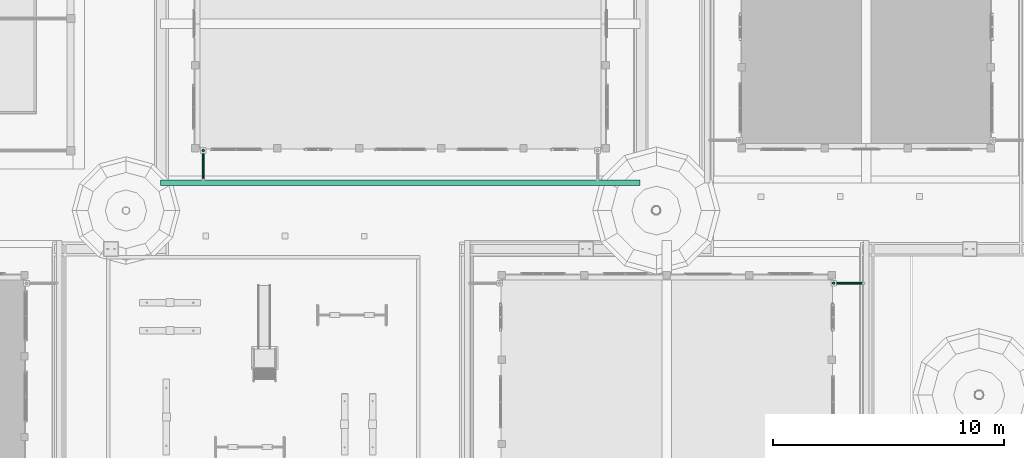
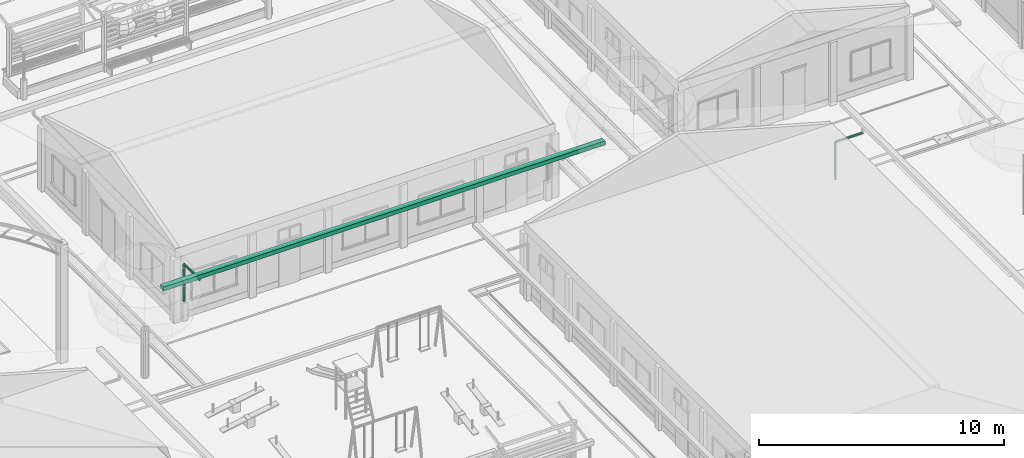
# One storey, part 108 of 177: 5 pipe segments.
"""IFC4 building model written with IfcOpenShell, lengths in metres."""

from ifc_helpers import new_model, si_unit, origin, origin_with_axes, place, context, subcontext, project, spatial, triangles, element, save


model = new_model("IFC4")

# Units and contexts
model_context = context("Model", 3, precision=1e-05, world=origin_with_axes())
body_context = subcontext(model_context, "Body", "Model", "MODEL_VIEW")
ifc_project = project(units=[si_unit("LENGTHUNIT", "METRE"), si_unit("AREAUNIT", "SQUARE_METRE"), si_unit("VOLUMEUNIT", "CUBIC_METRE"), si_unit("PLANEANGLEUNIT", "RADIAN")], contexts=[model_context])

# Site, building, storey
site_placement = place(None, origin_with_axes())
site = spatial("IfcSite", under=ifc_project, at=site_placement, Name="Predio Los Mangos - Morales, San Martín", CompositionType="ELEMENT")
building_placement = place(site_placement, origin())
building = spatial("IfcBuilding", under=site, at=building_placement, Name="Hogar de Refugio Temporal", CompositionType="ELEMENT")
storey_placement = place(building_placement, origin())
storey = spatial("IfcBuildingStorey", under=building, at=storey_placement, Name="NIVEL 1 (NPT +0.00)", CompositionType="ELEMENT", Elevation=0.0)

# Pipe segments
pipe_segment_1_placement = place(storey_placement, origin())
element("IfcPipeSegment", 1, at=pipe_segment_1_placement, inside=storey, Name="E-06_canaleta", ObjectType="Canaleta", PredefinedType="GUTTER", context=body_context, shape_type="Tessellation", body=[
    triangles([(30.5, 91.08, 3.13), (51.3, 91.08, 3.13), (51.3, 91.32, 3.13), (30.5, 91.32, 3.13), (30.5, 91.08, 3.33), (51.3, 91.08, 3.33), (51.3, 91.32, 3.33), (30.5, 91.32, 3.33)], [[1, 4, 3], [1, 3, 2], [5, 6, 7], [5, 7, 8], [1, 2, 6], [1, 6, 5], [2, 3, 7], [2, 7, 6], [3, 4, 8], [3, 8, 7], [4, 1, 5], [4, 5, 8]]),
])
pipe_segment_2_placement = place(storey_placement, origin())
element("IfcPipeSegment", 2, at=pipe_segment_2_placement, inside=storey, Name="montante_desvio", ObjectType="Montante PVC 4\"", PredefinedType="RIGIDSEGMENT", context=body_context, shape_type="Tessellation", body=[
    triangles([(60.98, 86.85, 2.965), (59.69, 86.85, 2.965), (60.98, 86.8225, 2.9576), (59.69, 86.8225, 2.9576), (60.98, 86.8024, 2.9375), (59.69, 86.8024, 2.9375), (60.98, 86.795, 2.91), (59.69, 86.795, 2.91), (60.98, 86.8024, 2.8825), (59.69, 86.8024, 2.8825), (60.98, 86.8225, 2.8624), (59.69, 86.8225, 2.8624), (60.98, 86.85, 2.855), (59.69, 86.85, 2.855), (60.98, 86.8775, 2.8624), (59.69, 86.8775, 2.8624), (60.98, 86.8976, 2.8825), (59.69, 86.8976, 2.8825), (60.98, 86.905, 2.91), (59.69, 86.905, 2.91), (60.98, 86.8976, 2.9375), (59.69, 86.8976, 2.9375), (60.98, 86.8775, 2.9576), (59.69, 86.8775, 2.9576)], [[1, 2, 4], [1, 4, 3], [3, 4, 6], [3, 6, 5], [5, 6, 8], [5, 8, 7], [7, 8, 10], [7, 10, 9], [9, 10, 12], [9, 12, 11], [11, 12, 14], [11, 14, 13], [13, 14, 16], [13, 16, 15], [15, 16, 18], [15, 18, 17], [17, 18, 20], [17, 20, 19], [19, 20, 22], [19, 22, 21], [6, 4, 2], [2, 24, 22], [22, 20, 18], [18, 16, 14], [14, 12, 10], [10, 8, 6], [6, 2, 22], [22, 18, 14], [14, 10, 6], [22, 14, 6], [21, 22, 24], [21, 24, 23], [23, 24, 2], [23, 2, 1], [23, 1, 3], [3, 5, 7], [7, 9, 11], [11, 13, 15], [15, 17, 19], [19, 21, 23], [23, 3, 7], [7, 11, 15], [15, 19, 23], [7, 15, 23]]),
])
pipe_segment_3_placement = place(storey_placement, origin())
element("IfcPipeSegment", 3, at=pipe_segment_3_placement, inside=storey, Name="montante_bajada", ObjectType="Montante PVC 4\"", PredefinedType="RIGIDSEGMENT", context=body_context, shape_type="Tessellation", body=[
    triangles([(59.69, 86.905, 2.91), (59.69, 86.905, 1.05), (59.6625, 86.8976, 2.91), (59.6625, 86.8976, 1.05), (59.6424, 86.8775, 2.91), (59.6424, 86.8775, 1.05), (59.635, 86.85, 2.91), (59.635, 86.85, 1.05), (59.6424, 86.8225, 2.91), (59.6424, 86.8225, 1.05), (59.6625, 86.8024, 2.91), (59.6625, 86.8024, 1.05), (59.69, 86.795, 2.91), (59.69, 86.795, 1.05), (59.7175, 86.8024, 2.91), (59.7175, 86.8024, 1.05), (59.7376, 86.8225, 2.91), (59.7376, 86.8225, 1.05), (59.745, 86.85, 2.91), (59.745, 86.85, 1.05), (59.7376, 86.8775, 2.91), (59.7376, 86.8775, 1.05), (59.7175, 86.8976, 2.91), (59.7175, 86.8976, 1.05)], [[1, 2, 4], [1, 4, 3], [3, 4, 6], [3, 6, 5], [5, 6, 8], [5, 8, 7], [7, 8, 10], [7, 10, 9], [9, 10, 12], [9, 12, 11], [11, 12, 14], [11, 14, 13], [13, 14, 16], [13, 16, 15], [15, 16, 18], [15, 18, 17], [17, 18, 20], [17, 20, 19], [19, 20, 22], [19, 22, 21], [6, 4, 2], [2, 24, 22], [22, 20, 18], [18, 16, 14], [14, 12, 10], [10, 8, 6], [6, 2, 22], [22, 18, 14], [14, 10, 6], [22, 14, 6], [21, 22, 24], [21, 24, 23], [23, 24, 2], [23, 2, 1], [23, 1, 3], [3, 5, 7], [7, 9, 11], [11, 13, 15], [15, 17, 19], [19, 21, 23], [23, 3, 7], [7, 11, 15], [15, 19, 23], [7, 15, 23]]),
])
pipe_segment_4_placement = place(storey_placement, origin())
element("IfcPipeSegment", 4, at=pipe_segment_4_placement, inside=storey, Name="montante_desvio", ObjectType="Montante PVC 4\"", PredefinedType="RIGIDSEGMENT", context=body_context, shape_type="Tessellation", body=[
    triangles([(32.35, 91.32, 2.965), (32.35, 92.61, 2.965), (32.3225, 91.32, 2.9576), (32.3225, 92.61, 2.9576), (32.3024, 91.32, 2.9375), (32.3024, 92.61, 2.9375), (32.295, 91.32, 2.91), (32.295, 92.61, 2.91), (32.3024, 91.32, 2.8825), (32.3024, 92.61, 2.8825), (32.3225, 91.32, 2.8624), (32.3225, 92.61, 2.8624), (32.35, 91.32, 2.855), (32.35, 92.61, 2.855), (32.3775, 91.32, 2.8624), (32.3775, 92.61, 2.8624), (32.3976, 91.32, 2.8825), (32.3976, 92.61, 2.8825), (32.405, 91.32, 2.91), (32.405, 92.61, 2.91), (32.3976, 91.32, 2.9375), (32.3976, 92.61, 2.9375), (32.3775, 91.32, 2.9576), (32.3775, 92.61, 2.9576)], [[1, 2, 4], [1, 4, 3], [3, 4, 6], [3, 6, 5], [5, 6, 8], [5, 8, 7], [7, 8, 10], [7, 10, 9], [9, 10, 12], [9, 12, 11], [11, 12, 14], [11, 14, 13], [13, 14, 16], [13, 16, 15], [15, 16, 18], [15, 18, 17], [17, 18, 20], [17, 20, 19], [19, 20, 22], [19, 22, 21], [6, 4, 2], [2, 24, 22], [22, 20, 18], [18, 16, 14], [14, 12, 10], [10, 8, 6], [6, 2, 22], [22, 18, 14], [14, 10, 6], [22, 14, 6], [21, 22, 24], [21, 24, 23], [23, 24, 2], [23, 2, 1], [23, 1, 3], [3, 5, 7], [7, 9, 11], [11, 13, 15], [15, 17, 19], [19, 21, 23], [23, 3, 7], [7, 11, 15], [15, 19, 23], [7, 15, 23]]),
])
pipe_segment_5_placement = place(storey_placement, origin())
element("IfcPipeSegment", 5, at=pipe_segment_5_placement, inside=storey, Name="montante_bajada", ObjectType="Montante PVC 4\"", PredefinedType="RIGIDSEGMENT", context=body_context, shape_type="Tessellation", body=[
    triangles([(32.35, 92.665, 2.91), (32.35, 92.665, 1.05), (32.3225, 92.6576, 2.91), (32.3225, 92.6576, 1.05), (32.3024, 92.6375, 2.91), (32.3024, 92.6375, 1.05), (32.295, 92.61, 2.91), (32.295, 92.61, 1.05), (32.3024, 92.5825, 2.91), (32.3024, 92.5825, 1.05), (32.3225, 92.5624, 2.91), (32.3225, 92.5624, 1.05), (32.35, 92.555, 2.91), (32.35, 92.555, 1.05), (32.3775, 92.5624, 2.91), (32.3775, 92.5624, 1.05), (32.3976, 92.5825, 2.91), (32.3976, 92.5825, 1.05), (32.405, 92.61, 2.91), (32.405, 92.61, 1.05), (32.3976, 92.6375, 2.91), (32.3976, 92.6375, 1.05), (32.3775, 92.6576, 2.91), (32.3775, 92.6576, 1.05)], [[1, 2, 4], [1, 4, 3], [3, 4, 6], [3, 6, 5], [5, 6, 8], [5, 8, 7], [7, 8, 10], [7, 10, 9], [9, 10, 12], [9, 12, 11], [11, 12, 14], [11, 14, 13], [13, 14, 16], [13, 16, 15], [15, 16, 18], [15, 18, 17], [17, 18, 20], [17, 20, 19], [19, 20, 22], [19, 22, 21], [6, 4, 2], [2, 24, 22], [22, 20, 18], [18, 16, 14], [14, 12, 10], [10, 8, 6], [6, 2, 22], [22, 18, 14], [14, 10, 6], [22, 14, 6], [21, 22, 24], [21, 24, 23], [23, 24, 2], [23, 2, 1], [23, 1, 3], [3, 5, 7], [7, 9, 11], [11, 13, 15], [15, 17, 19], [19, 21, 23], [23, 3, 7], [7, 11, 15], [15, 19, 23], [7, 15, 23]]),
])

save(model, "model.ifc")
